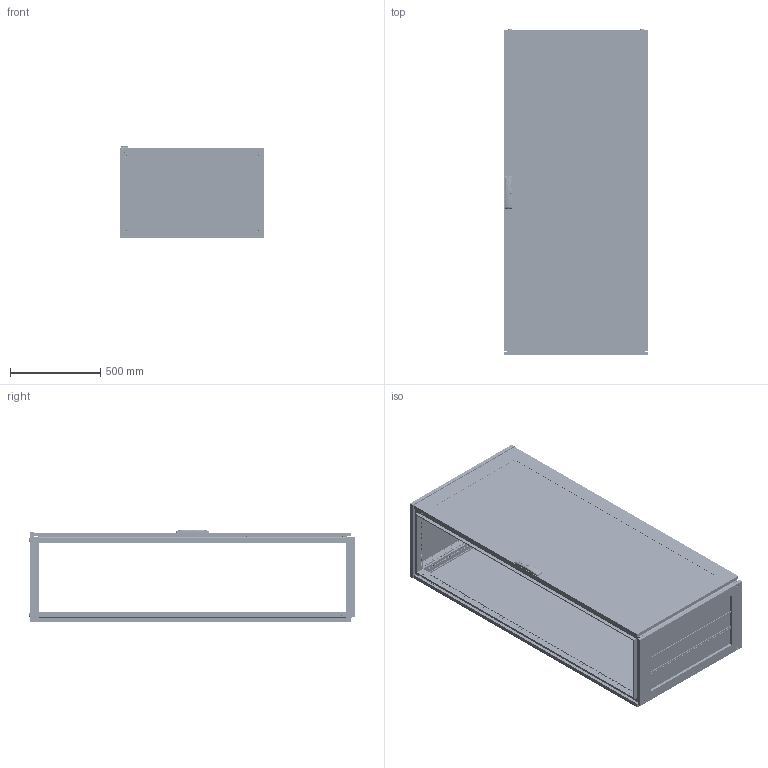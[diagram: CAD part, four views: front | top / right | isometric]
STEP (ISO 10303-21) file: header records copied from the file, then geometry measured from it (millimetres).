
FILE_DESCRIPTION (( 'STEP AP203' ), '1' );
FILE_NAME ('R5CQEN1885AX.STEP', '2025-05-07T11:59:30', ( '' ), ( '' ), 'SwSTEP 2.0', 'SolidWorks 2022', '' );
FILE_SCHEMA (( 'CONFIG_CONTROL_DESIGN' ));
Length unit declared in the file: millimetre
Products named in the file (65): 7 DIN 6799 Zinc simple; M6x10 DIN 7500 M Torx cl.5.8 Zinc_straight; М6х12 A5100231_straight; RB.2685.00.00.0 simple_-01; M6x10 DIN 7500 E HX cl.5.8 Zinc_straight; ATOS Traction guide ILY03.35; R5NCPTE - Assem simple_R5NCPTE1880; R5NKTB - Assem simple_H=1800 R5NKTB85; TPA.08.0084.00.00.0 simple; M6x10 DIN 912 HX cl.8,8 Zinc_straight; RB.2455.00.00.0 simple_-03; TPA.08.0083.00.00.0 simple; RB.2499.00.00.0 СБ simple_-19; RB.0562.01.00.0 СБ simple_-13; RB.2968.00.00.0 simple; RB.2680.00.00.0 СБ simple; RB.2499.01.00.0 СБ simple_-18; AC00C446-R; RB.1633.00.02.0 simple_-01; PF 7,5x15 CPE simple_1800x0800; RB.2456.00.00.0 simple_-01; RB.0054.01.01.0 simple_-18; TPA.08.0139.00.01.0 simple; RB.0528.04.00.0 СБ simple; R5NKMN - Assem simple_R5NKMN18 (800х500); M12x16 ISO 7380-1 HX cl.4,8 Zinc_straight; M6x15 Erickson cl.4,8 Zinc; RB.2052.01.00.0 СБ simple_-18; RB.2052.00.00.0 СБ simple_-18; Square cap 20x20 simple; RB.2755.00.00.0 СБ simple_-19; RB.2680.00.01.0 simple; RB.2969.00.00.0 СБ simple; 4,0x16 F Torx Zinc (ART 88200)_thread; RB.2969.00.01.0 simple; RB.2696.00.00.0 simple; RB.2686.00.00.0 simple; RB.2680.00.02.0 simple; RB.2172.00.00.1 simple; RB.2702.00.00.0 simple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
Assembly tree (173 placements, depth 5):
  R5CQEN1885AX
    R5NCPTE - Assem simple_R5NCPTE1880
      RB.0562.00.00.0 СБ simple_-13
        RB.0562.01.00.0 СБ simple_-13
          RB.0562.01.01.0 simple_-13
          М6х12 A5100231_straight  x7
          RB.2702.00.00.0 simple  x4
          PF 7,5x15 CPE simple_1800x0800
          Glass CPTE_1800x0800
          Glue CPTE simple_1800x0800
        Square cap 20x20 simple  x2
        M6x15 Erickson cl.4,8 Zinc  x2
        RB.0528.00.01.0 simple_-04  x2
        ATOS Traction guide ILY03.35  x4
        RB.2357.00.00.0 simple_-05
        RB.2680.00.00.0 СБ simple
          TPA.08.0139.00.01.0 simple
          RB.2680.00.01.0 simple
          RB.2680.00.02.0 simple  x2
        TPA.08.0139.00.03.0  x2
        M6 DIN 985 cl.6,0 Zinc_straight  x4
        4,0x16 F Torx Zinc (ART 88200)_thread  x2
        RB.0528.04.00.0 СБ simple  x2
          RB.0528.04.01.0 simple
          Pressing stud FH-M6-12_M6x12mm
      M6x10 DIN 912 HX cl.8,8 Zinc_straight  x8
      4.8x13 DIN 7981 PH Zinc_straight
      7 DIN 6799 Zinc simple  x4
      RB.2968.00.00.0 simple  x4
      RB.2969.00.00.0 СБ simple  x4
        RB.2969.00.01.0 simple
        Pin 4x16 DIN 7 AISI 303 (A1) simple
        M6 MGR-MKO-0625 simple_Thread
      AC00C446-R
      RB.2696.00.00.0 simple  x4
      7 DIN 6799 Zinc  x4
    R5NCRE-Assem simple_R5NCRE1880
      RB.2052.00.00.0 СБ simple_-18
        RB.2052.01.00.0 СБ simple_-18
          RB.0054.01.01.0 simple_-18
          М6х12 A5100231_straight  x4
        PF 7x14 CRE simple_1800x0800
      RB.2172.00.00.1 simple  x8
      M6x10 DIN 7500 E HX cl.5.8 Zinc_straight  x8
      M6x10 DIN 7500 M Torx cl.5.8 Zinc_straight  x8
    R5NKMN - Assem simple_R5NKMN18 (800х500)
      RB.2528.00.00.0 simple_-04  x4
    R5NKTB - Assem simple_H=1800 R5NKTB85
      RB.2499.00.00.0 СБ simple_-19
        RB.2499.01.00.0 СБ simple_-18
          RB.1633.00.01.0 simple_-03  x2
          RB.1633.00.02.0 simple_-01  x2
          PF 5x10 KTB simple_800х500
        RB.2457.00.00.0 СБ simple_-19
          RB.2455.00.00.0 simple_-03  x2
          RB.2456.00.00.0 simple_-01  x2
          TPA.08.0084.00.00.0 simple  x2
          TPA.08.0083.00.00.0 simple  x2
          M8x12 AC00C476 cl.8,8 Zinc_stright  x4
        RB.1957.00.00.0 simple_-10  x3
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Bounding box: 800 x 1813.3 x 514.74 mm (x, y, z)
Volume: 16409800.4 mm3; surface area: 14050285.2 mm2
Topology: 176 solids, 192 shells, 21665 faces, 61355 edges, 40395 vertices
Faces by surface type: plane 12123, cylinder 8001, cone 704, bspline 435, torus 368, sphere 34
Entity records: 217469 total; most frequent: CARTESIAN_POINT 54191, ORIENTED_EDGE 32322, DIRECTION 30799, EDGE_CURVE 16187, VERTEX_POINT 10714, AXIS2_PLACEMENT_3D 10345, LINE 10109, VECTOR 10109
